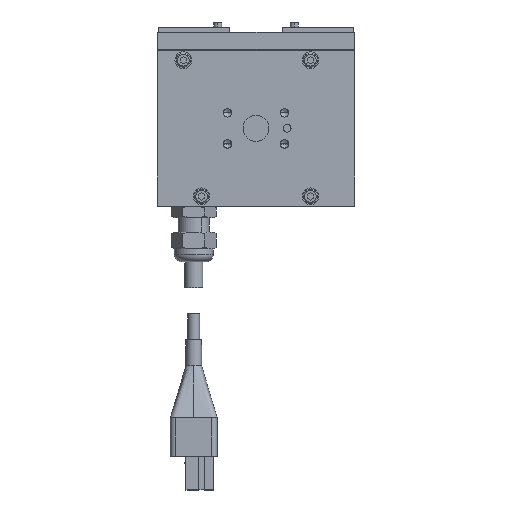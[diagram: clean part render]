
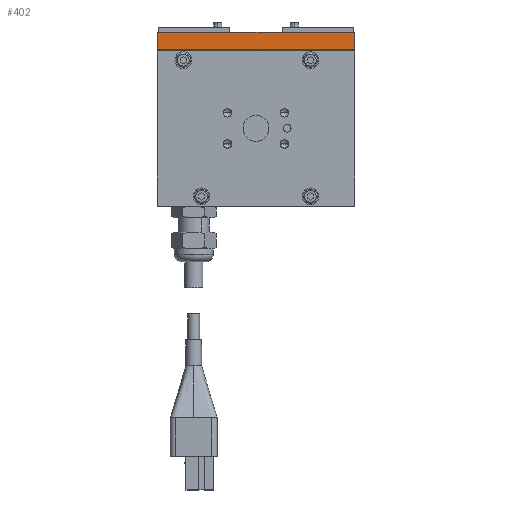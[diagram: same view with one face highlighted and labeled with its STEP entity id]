
A CAD part, top view. The second image highlights one B-rep face of the part: STEP entity #402.
In plain terms, the highlighted planar face has unit normal (0, 0, 1).
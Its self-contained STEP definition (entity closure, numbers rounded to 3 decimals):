
#285 = EDGE_CURVE ( 'NONE', #295, #302, #15855, .T. ) ;
#295 = VERTEX_POINT ( 'NONE', #15873 ) ;
#302 = VERTEX_POINT ( 'NONE', #15869 ) ;
#396 = EDGE_CURVE ( 'NONE', #13282, #302, #16194, .T. ) ;
#398 = ORIENTED_EDGE ( 'NONE', *, *, #396, .T. ) ;
#402 = ADVANCED_FACE ( 'NONE', ( #16186 ), #16228, .F. ) ;
#473 = ORIENTED_EDGE ( 'NONE', *, *, #285, .F. ) ;
#476 = ORIENTED_EDGE ( 'NONE', *, *, #15924, .F. ) ;
#5430 = CARTESIAN_POINT ( 'NONE',  ( 37.95, 67., 12.5 ) ) ;
#5433 = DIRECTION ( 'NONE',  ( 0., -1., 0. ) ) ;
#5435 = VECTOR ( 'NONE', #5433, 1000. ) ;
#5437 = CARTESIAN_POINT ( 'NONE',  ( 37.95, 60.5, 12.5 ) ) ;
#5438 = LINE ( 'NONE', #5437, #5435 ) ;
#5461 = DIRECTION ( 'NONE',  ( -1., 0., 0. ) ) ;
#5462 = VECTOR ( 'NONE', #5461, 1000. ) ;
#5465 = CARTESIAN_POINT ( 'NONE',  ( 37.95, 67., 12.5 ) ) ;
#5473 = LINE ( 'NONE', #5465, #5462 ) ;
#5484 = CARTESIAN_POINT ( 'NONE',  ( -37.95, 67., 12.5 ) ) ;
#13275 = VERTEX_POINT ( 'NONE', #5430 ) ;
#13282 = VERTEX_POINT ( 'NONE', #5484 ) ;
#13286 = EDGE_CURVE ( 'NONE', #13275, #13282, #5473, .T. ) ;
#13307 = EDGE_LOOP ( 'NONE', ( #398, #473, #476, #15327 ) ) ;
#15327 = ORIENTED_EDGE ( 'NONE', *, *, #13286, .T. ) ;
#15852 = DIRECTION ( 'NONE',  ( -1., 0., 0. ) ) ;
#15853 = VECTOR ( 'NONE', #15852, 1000. ) ;
#15854 = CARTESIAN_POINT ( 'NONE',  ( 37.95, 60.5, 12.5 ) ) ;
#15855 = LINE ( 'NONE', #15854, #15853 ) ;
#15869 = CARTESIAN_POINT ( 'NONE',  ( -37.95, 60.5, 12.5 ) ) ;
#15873 = CARTESIAN_POINT ( 'NONE',  ( 37.95, 60.5, 12.5 ) ) ;
#15924 = EDGE_CURVE ( 'NONE', #13275, #295, #5438, .T. ) ;
#16186 = FACE_OUTER_BOUND ( 'NONE', #13307, .T. ) ;
#16191 = DIRECTION ( 'NONE',  ( 0., -1., 0. ) ) ;
#16192 = VECTOR ( 'NONE', #16191, 1000. ) ;
#16193 = CARTESIAN_POINT ( 'NONE',  ( -37.95, 60.5, 12.5 ) ) ;
#16194 = LINE ( 'NONE', #16193, #16192 ) ;
#16223 = DIRECTION ( 'NONE',  ( 0., 1., 0. ) ) ;
#16224 = DIRECTION ( 'NONE',  ( 0., 0., -1. ) ) ;
#16225 = CARTESIAN_POINT ( 'NONE',  ( 37.95, 60.5, 12.5 ) ) ;
#16226 = AXIS2_PLACEMENT_3D ( 'NONE', #16225, #16224, #16223 ) ;
#16228 = PLANE ( 'NONE',  #16226 ) ;
